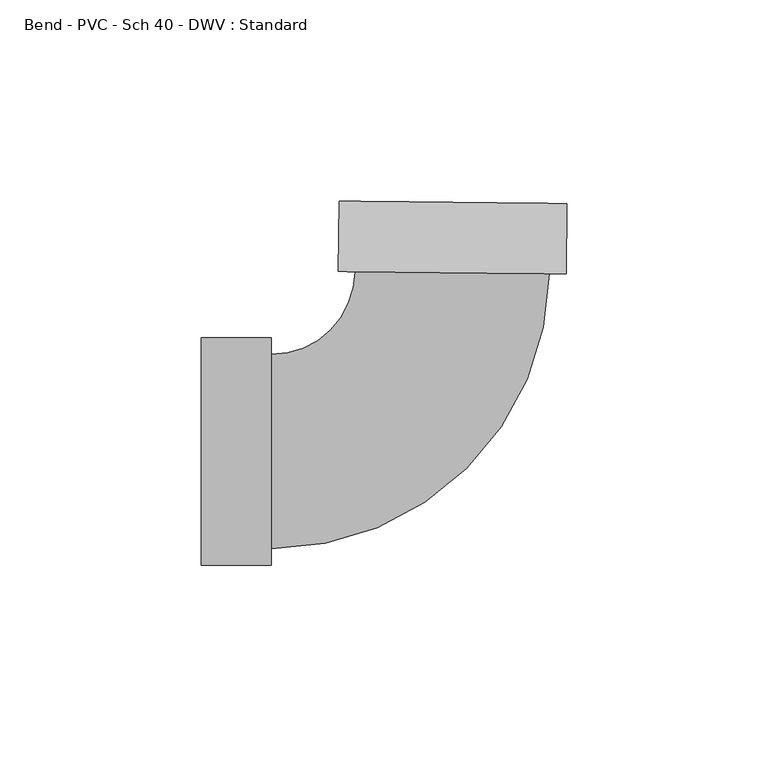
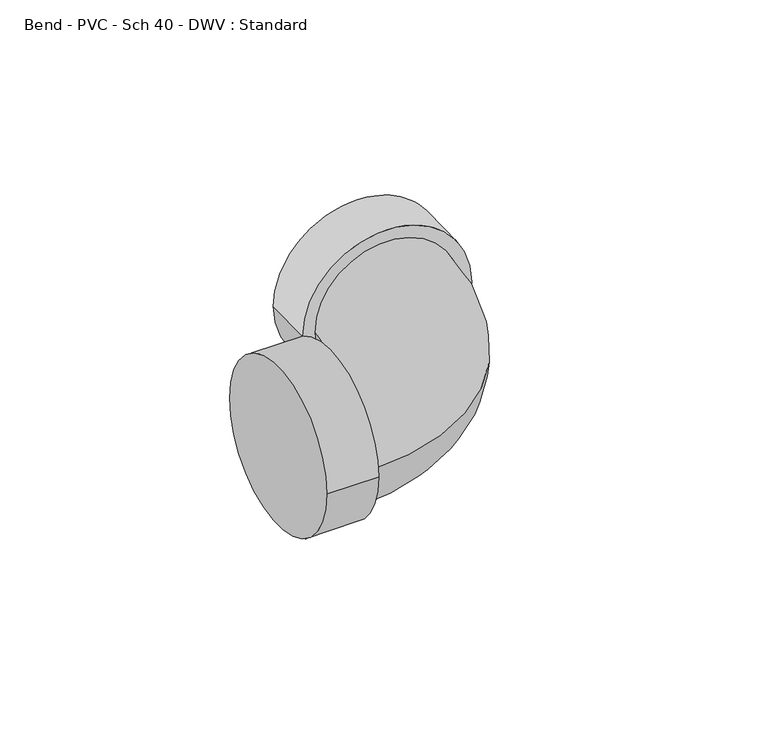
"""IFC4 building model written with IfcOpenShell, lengths in millimetres: pipe fitting geometry, Bend - PVC - Sch 40 - DWV : Standard."""

from ifc_helpers import new_model, si_unit, point, frame, origin, place, context, project, spatial, circle_curve, ellipse_curve, trimmed, source, transform, mapped, element, save
from ifc_brep_helpers import plane_surface, cylinder_surface, revolved_surface, advanced_brep


def bend_pvc_sch_40_dwv_standard_468c22b2(model_context):
    return source(origin(), model_context, "Body", "AdvancedBrep", [
        advanced_brep(
        [(-61.8998, -28.2829, 0.0), (-61.8998, 28.2829, 0.0), (-44.45, -28.2829, 0.0), (-44.45, 28.2829, 0.0), (-44.45, -24.13, 0.0), (-44.45, 24.13, 0.0), (-23.6656953, 44.6989292, 0.0), (24.5916867, 44.1962481, 0.0), (28.7443614, 44.1529911, 0.0), (-27.81837, 44.7421862, 0.0), (28.9261203, 61.6018444, 0.0), (-27.6366111, 62.1910396, 0.0)],
        [
            (0, 1, circle_curve(frame((-61.8998, 0.0, 0.0), z_axis=(-1.0, 0.0, 0.0), x_axis=(0.0, 1.0, 0.0)), 28.2829)),
            (1, 0, circle_curve(frame((-61.8998, 0.0, 0.0), z_axis=(-1.0, 0.0, 0.0), x_axis=(0.0, 1.0, 0.0)), 28.2829)),
            (2, 3, circle_curve(frame((-44.45, 0.0, 0.0), z_axis=(1.0, 0.0, 0.0), x_axis=(0.0, 1.0, 0.0)), 28.2829)),
            (3, 2, circle_curve(frame((-44.45, 0.0, 0.0), z_axis=(1.0, 0.0, 0.0), x_axis=(0.0, 1.0, 0.0)), 28.2829)),
            (4, 5, circle_curve(frame((-44.45, 0.0, 0.0), z_axis=(-1.0, 0.0, 0.0), x_axis=(0.0, 1.0, 0.0)), 24.13)),
            (5, 4, circle_curve(frame((-44.45, 0.0, 0.0), z_axis=(-1.0, 0.0, 0.0), x_axis=(0.0, 1.0, 0.0)), 24.13)),
            (0, 2),
            (3, 1),
            (6, 5, circle_curve(frame((-44.45, 44.9154323, 0.0), z_axis=(0.0, 0.0, -1.0), x_axis=(0.0, -1.0, 0.0)), 20.7854323)),
            (4, 7, circle_curve(frame((-44.45, 44.9154323, 0.0), z_axis=(0.0, 0.0, 1.0), x_axis=(0.0, -1.0, 0.0)), 69.0454323)),
            (7, 6, circle_curve(frame((0.4629957, 44.4475886, 0.0), z_axis=(-0.010416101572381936, -0.9999457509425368, 0.0), x_axis=(-0.9999457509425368, 0.010416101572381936, 0.0)), 24.13)),
            (6, 7, circle_curve(frame((0.4629957, 44.4475886, 0.0), z_axis=(-0.010416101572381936, -0.9999457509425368, 0.0), x_axis=(-0.9999457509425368, 0.010416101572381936, 0.0)), 24.13)),
            (8, 9, circle_curve(frame((0.4629957, 44.4475886, 0.0), z_axis=(-0.010416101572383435, -0.9999457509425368, 0.0), x_axis=(-0.9999457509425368, 0.010416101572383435, 0.0)), 28.2829)),
            (9, 8, circle_curve(frame((0.4629957, 44.4475886, 0.0), z_axis=(-0.010416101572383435, -0.9999457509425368, 0.0), x_axis=(-0.9999457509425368, 0.010416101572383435, 0.0)), 28.2829)),
            (10, 11, circle_curve(frame((0.6447546, 61.896442, 0.0), z_axis=(0.010416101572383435, 0.9999457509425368, 0.0), x_axis=(-0.9999457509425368, 0.010416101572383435, 0.0)), 28.2829)),
            (11, 10, circle_curve(frame((0.6447546, 61.896442, 0.0), z_axis=(0.010416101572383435, 0.9999457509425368, 0.0), x_axis=(-0.9999457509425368, 0.010416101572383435, 0.0)), 28.2829)),
            (8, 10),
            (11, 9),
        ],
        [
            plane_surface(frame((-61.8998, 0.0, 0.0), z_axis=(-1.0, 0.0, 0.0), x_axis=(0.0, 0.0, 1.0))),
            plane_surface(frame((-44.45, 0.0, 0.0), z_axis=(1.0, 0.0, 0.0), x_axis=(0.0, 0.0, 1.0))),
            cylinder_surface(frame((-61.8998, 0.0, 0.0), z_axis=(-1.0, 0.0, 0.0), x_axis=(0.0, 1.0, 0.0)), 28.2829),
            revolved_surface(trimmed(ellipse_curve(frame((-44.45, 0.0, 0.0), z_axis=(-1.0, 0.0, 0.0), x_axis=(0.0, 1.0, 0.0)), 24.13, 24.13), [point((-44.45, -24.13, 0.0))], [point((-44.45, 24.13, 0.0))], True, "CARTESIAN"), (-44.45, 44.9154323, 0.0), (0.0, 0.0, 1.0)),
            revolved_surface(trimmed(ellipse_curve(frame((-44.45, 0.0, 0.0), z_axis=(-1.0, 0.0, 0.0), x_axis=(0.0, 1.0, 0.0)), 24.13, 24.13), [point((-44.45, 24.13, 0.0))], [point((-44.45, -24.13, 0.0))], True, "CARTESIAN"), (-44.45, 44.9154323, 0.0), (0.0, 0.0, 1.0)),
            plane_surface(frame((0.4629957, 44.4475886, 0.0), z_axis=(-0.010416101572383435, -0.9999457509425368, 0.0), x_axis=(0.0, 0.0, 1.0))),
            plane_surface(frame((0.6447546, 61.896442, 0.0), z_axis=(0.010416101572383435, 0.9999457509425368, 0.0), x_axis=(0.0, 0.0, 1.0))),
            cylinder_surface(frame((0.4629957, 44.4475886, 0.0), z_axis=(-0.010416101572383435, -0.9999457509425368, 0.0), x_axis=(-0.9999457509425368, 0.010416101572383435, 0.0)), 28.2829),
        ],
        [
            (0, [[1, 2]]),
            (1, [[3, 4], [5, 6]]),
            (2, [[-1, 7, -4, 8]]),
            (2, [[-2, -8, -3, -7]]),
            (3, [[9, -5, 10, 11]]),
            (4, [[-9, 12, -10, -6]]),
            (5, [[13, 14], [-11, -12]]),
            (6, [[15, 16]]),
            (7, [[-13, 17, -16, 18]]),
            (7, [[-14, -18, -15, -17]]),
        ],
    ),
    ])


if __name__ == "__main__":
    model = new_model("IFC4")
    model_context = context("Model", 3, world=origin())
    ifc_project = project(units=[si_unit("LENGTHUNIT", "METRE", prefix="MILLI")], contexts=[model_context])
    site = spatial("IfcSite", under=ifc_project)
    building = spatial("IfcBuilding", under=site)
    placement = place(None, origin())
    bend_pvc_sch_40_dwv_standard_shape = bend_pvc_sch_40_dwv_standard_468c22b2(model_context)
    element("IfcPipeFitting", 1, ObjectType="Bend - PVC - Sch 40 - DWV : Standard", at=placement, inside=building, context=model_context, shape_type="MappedRepresentation", body=[
        mapped(bend_pvc_sch_40_dwv_standard_shape, transform((0.0, 0.0, 0.0), x_axis=(1.0, 0.0, 0.0), y_axis=(0.0, 1.0, 0.0), z_axis=(0.0, 0.0, 1.0))),
    ])
    save(model, "model.ifc")
